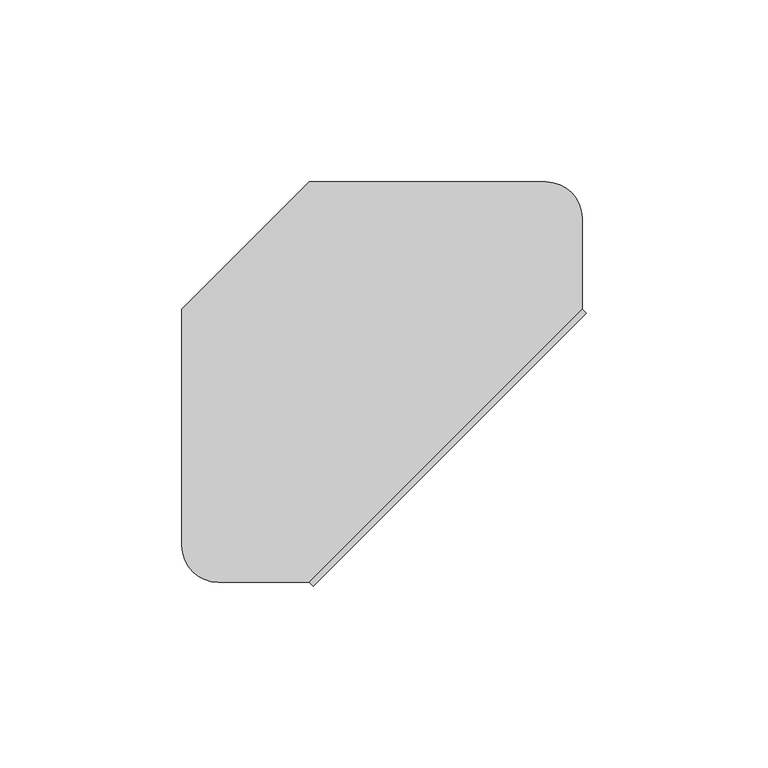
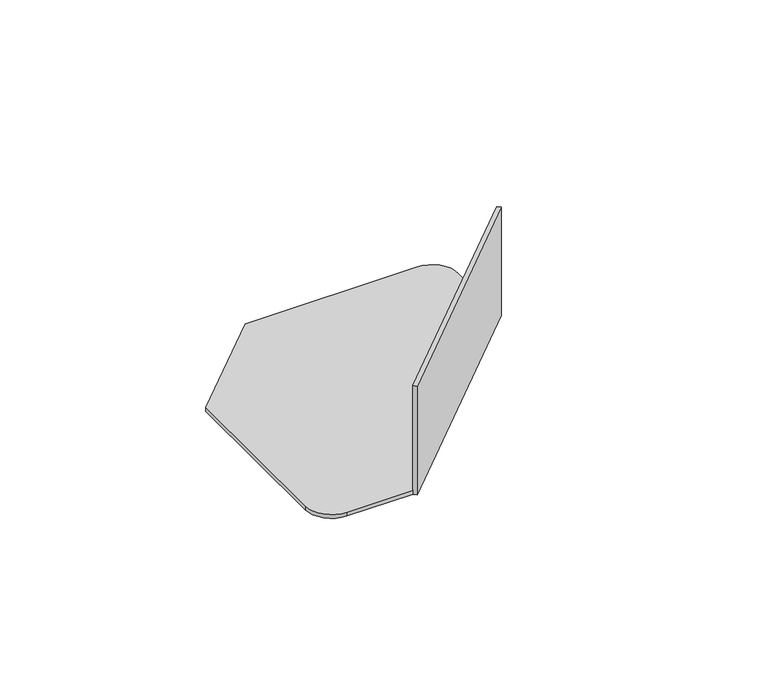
"""IFC4 building model written with IfcOpenShell, lengths in millimetres: cable carrier fitting geometry, BAKS_SUB_Corner connector : LRJ_H42."""

from ifc_helpers import new_model, si_unit, frame, origin, place, context, project, spatial, circle_curve, source, transform, mapped, element, save
from ifc_brep_helpers import plane_surface, cylinder_surface, advanced_brep


def cable_carrier_fitting_e5c8e40d(model_context):
    return source(origin(), model_context, "Body", "AdvancedBrep", [
        advanced_brep(
        [(75.0, 25.0, 0.0), (65.0, 35.0, 0.0), (0.0, 35.0, 0.0), (-35.0, 0.0, 0.0), (-35.0, -65.0, 0.0), (-25.0, -75.0, 0.0), (0.0, -75.0, 0.0), (75.0, 0.0, 0.0), (75.0, 25.0, -1.5), (75.0, 0.0, -1.5), (76.0606602, -1.0606602, -1.5), (1.0606602, -76.0606602, -1.5), (0.0, -75.0, -1.5), (-25.0, -75.0, -1.5), (-35.0, -65.0, -1.5), (-35.0, 0.0, -1.5), (0.0, 35.0, -1.5), (65.0, 35.0, -1.5), (0.0, -75.0, 42.0), (1.0606602, -76.0606602, 42.0), (76.0606602, -1.0606602, 42.0), (75.0, 0.0, 42.0)],
        [
            (0, 1, circle_curve(frame((65.0, 25.0, 0.0), z_axis=(0.0, 0.0, 1.0), x_axis=(1.0, 0.0, 0.0)), 10.0)),
            (1, 2),
            (2, 3),
            (3, 4),
            (4, 5, circle_curve(frame((-25.0, -65.0, 0.0), z_axis=(0.0, 0.0, 1.0), x_axis=(1.0, 0.0, 0.0)), 10.0)),
            (5, 6),
            (6, 7),
            (7, 0),
            (8, 9),
            (9, 10),
            (10, 11),
            (11, 12),
            (12, 13),
            (13, 14, circle_curve(frame((-25.0, -65.0, -1.5), z_axis=(0.0, 0.0, -1.0), x_axis=(1.0, 0.0, 0.0)), 10.0)),
            (14, 15),
            (15, 16),
            (16, 17),
            (17, 8, circle_curve(frame((65.0, 25.0, -1.5), z_axis=(0.0, 0.0, -1.0), x_axis=(1.0, 0.0, 0.0)), 10.0)),
            (0, 8),
            (17, 1),
            (16, 2),
            (15, 3),
            (14, 4),
            (13, 5),
            (12, 6),
            (7, 9),
            (18, 19),
            (19, 20),
            (20, 21),
            (21, 18),
            (18, 6),
            (11, 19),
            (10, 20),
            (7, 21),
        ],
        [
            plane_surface(frame((75.0, 25.0, 0.0), z_axis=(0.0, 0.0, 1.0), x_axis=(0.0, 1.0, 0.0))),
            plane_surface(frame((75.0, 25.0, -1.5), z_axis=(0.0, 0.0, -1.0), x_axis=(0.0, -1.0, 0.0))),
            cylinder_surface(frame((65.0, 25.0, -1.5), z_axis=(0.0, 0.0, 1.0), x_axis=(1.0, 0.0, 0.0)), 10.0),
            plane_surface(frame((65.0, 35.0, 0.0), z_axis=(0.0, 1.0, 0.0), x_axis=(0.0, 0.0, -1.0))),
            plane_surface(frame((0.0, 35.0, 0.0), z_axis=(-0.707106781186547, 0.7071067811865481, 0.0), x_axis=(0.0, 0.0, -1.0))),
            plane_surface(frame((-35.0, 0.0, 0.0), z_axis=(-1.0, 0.0, 0.0), x_axis=(0.0, 0.0, -1.0))),
            cylinder_surface(frame((-25.0, -65.0, -1.5), z_axis=(0.0, 0.0, 1.0), x_axis=(1.0, 0.0, 0.0)), 10.0),
            plane_surface(frame((-25.0, -75.0, 0.0), z_axis=(0.0, -1.0, 0.0), x_axis=(0.0, 0.0, -1.0))),
            plane_surface(frame((75.0, 0.0, 0.0), z_axis=(1.0, 0.0, 0.0), x_axis=(0.0, 0.0, -1.0))),
            plane_surface(frame((0.0, -75.0, 42.0), z_axis=(0.0, 0.0, 1.0), x_axis=(0.7071067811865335, -0.7071067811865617, 0.0))),
            plane_surface(frame((0.0, -75.0, 42.0), z_axis=(-0.7071067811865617, -0.7071067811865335, 0.0), x_axis=(0.0, 0.0, -1.0))),
            plane_surface(frame((1.0606602, -76.0606602, 42.0), z_axis=(0.7071067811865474, -0.7071067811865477, 0.0), x_axis=(0.0, 0.0, -1.0))),
            plane_surface(frame((76.0606602, -1.0606602, 42.0), z_axis=(0.7071067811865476, 0.7071067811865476, 0.0), x_axis=(0.0, 0.0, -1.0))),
            plane_surface(frame((75.0, 0.0, 42.0), z_axis=(-0.7071067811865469, 0.7071067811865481, 0.0), x_axis=(0.0, 0.0, -1.0))),
        ],
        [
            (0, [[1, 2, 3, 4, 5, 6, 7, 8]]),
            (1, [[9, 10, 11, 12, 13, 14, 15, 16, 17, 18]]),
            (2, [[-1, 19, -18, 20]]),
            (3, [[-2, -20, -17, 21]]),
            (4, [[-3, -21, -16, 22]]),
            (5, [[-4, -22, -15, 23]]),
            (6, [[-5, -23, -14, 24]]),
            (7, [[-6, -24, -13, 25]]),
            (8, [[-8, 26, -9, -19]]),
            (9, [[27, 28, 29, 30]]),
            (10, [[-27, 31, -25, -12, 32]]),
            (11, [[-28, -32, -11, 33]]),
            (12, [[-29, -33, -10, -26, 34]]),
            (13, [[-30, -34, -7, -31]]),
        ],
    ),
    ])


if __name__ == "__main__":
    model = new_model("IFC4")
    model_context = context("Model", 3, world=origin())
    ifc_project = project(units=[si_unit("LENGTHUNIT", "METRE", prefix="MILLI")], contexts=[model_context])
    site = spatial("IfcSite", under=ifc_project)
    building = spatial("IfcBuilding", under=site)
    placement = place(None, origin())
    cable_carrier_fitting_shape = cable_carrier_fitting_e5c8e40d(model_context)
    element("IfcCableCarrierFitting", 1, ObjectType="BAKS_SUB_Corner connector : LRJ_H42", at=placement, inside=building, context=model_context, shape_type="MappedRepresentation", body=[
        mapped(cable_carrier_fitting_shape, transform((0.0, 0.0, 0.0), x_axis=(1.0, 0.0, 0.0), y_axis=(0.0, 1.0, 0.0), z_axis=(0.0, 0.0, 1.0))),
    ])
    save(model, "model.ifc")
